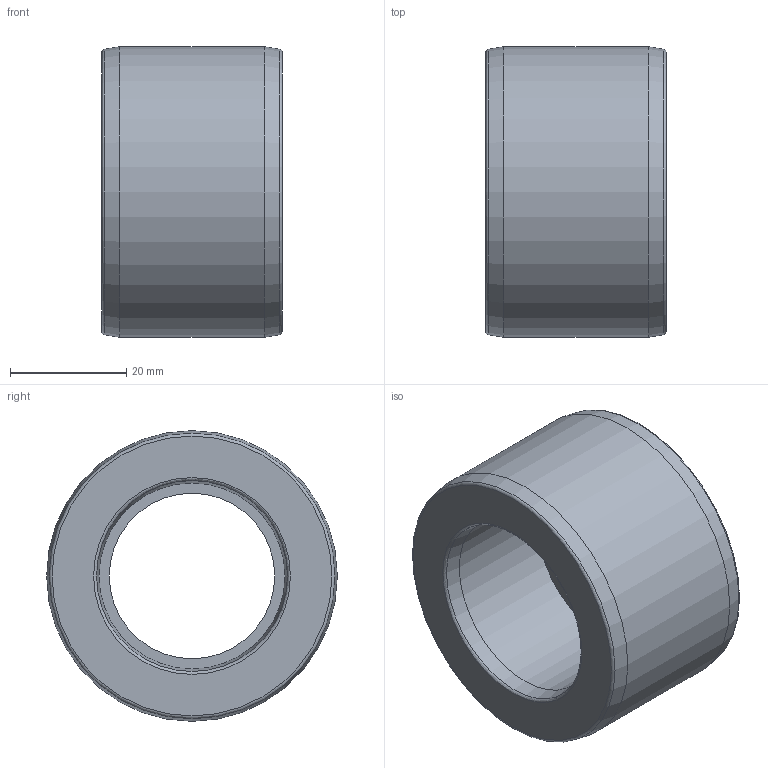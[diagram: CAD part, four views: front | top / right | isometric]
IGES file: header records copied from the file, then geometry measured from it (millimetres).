
Global section: file name: 050900050032.ipt; native system: Autodesk Inventor 2015; preprocessor: unknown; author: KIM; date: 20171207.165109; units: millimetre
Bounding box: 31 x 50 x 50 mm (x, y, z)
Volume: 35578.3 mm3; surface area: 10054.1 mm2
Topology: 1 solids, 1 shells, 15 faces, 43 edges, 31 vertices
Faces by surface type: revolution 9, plane 3, cone 2, cylinder 1
Full cylindrical faces by diameter (mm): 50 x1
